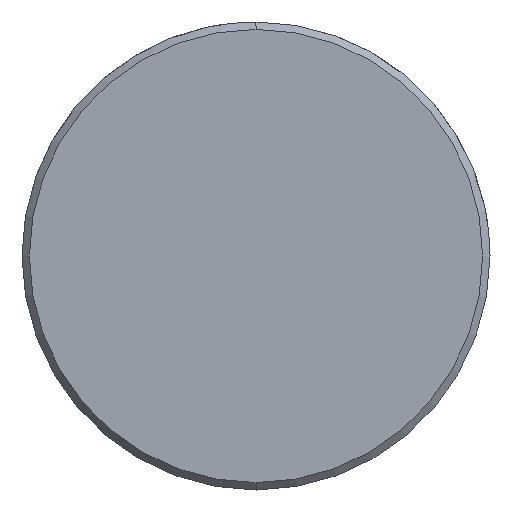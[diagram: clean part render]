
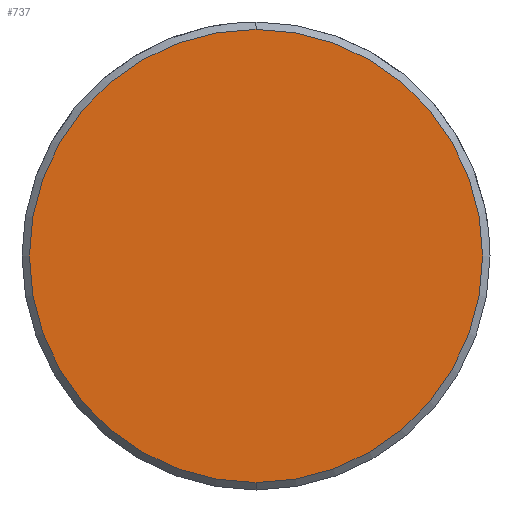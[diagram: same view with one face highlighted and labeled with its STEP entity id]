
A CAD part, left-side view. The second image highlights one B-rep face of the part: STEP entity #737.
In plain terms, the highlighted planar face has unit normal (-1, 0, 0).
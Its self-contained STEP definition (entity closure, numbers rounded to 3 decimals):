
#669=CARTESIAN_POINT('Vertex',(0.,0.,-9.2)) ;
#672=CARTESIAN_POINT('Axis2P3D Location',(0.,0.,0.)) ;
#676=CARTESIAN_POINT('Vertex',(0.,9.2,0.)) ;
#679=CARTESIAN_POINT('Axis2P3D Location',(0.,0.,0.)) ;
#683=CARTESIAN_POINT('Vertex',(0.,0.,9.2)) ;
#705=CARTESIAN_POINT('Axis2P3D Location',(0.,0.,0.)) ;
#709=CARTESIAN_POINT('Vertex',(0.,-9.2,0.)) ;
#712=CARTESIAN_POINT('Axis2P3D Location',(0.,0.,0.)) ;
#726=CARTESIAN_POINT('Axis2P3D Location',(0.,0.,0.)) ;
#673=DIRECTION('Axis2P3D Direction',(1.,0.,-0.)) ;
#680=DIRECTION('Axis2P3D Direction',(1.,0.,-0.)) ;
#706=DIRECTION('Axis2P3D Direction',(1.,0.,-0.)) ;
#713=DIRECTION('Axis2P3D Direction',(1.,0.,-0.)) ;
#727=DIRECTION('Axis2P3D Direction',(1.,0.,-0.)) ;
#728=DIRECTION('Axis2P3D XDirection',(-0.,0.,-1.)) ;
#674=AXIS2_PLACEMENT_3D('Circle Axis2P3D',#672,#673,$) ;
#681=AXIS2_PLACEMENT_3D('Circle Axis2P3D',#679,#680,$) ;
#707=AXIS2_PLACEMENT_3D('Circle Axis2P3D',#705,#706,$) ;
#714=AXIS2_PLACEMENT_3D('Circle Axis2P3D',#712,#713,$) ;
#729=AXIS2_PLACEMENT_3D('Plane Axis2P3D',#726,#727,#728) ;
#732=ORIENTED_EDGE('',*,*,#678,.F.) ;
#733=ORIENTED_EDGE('',*,*,#716,.F.) ;
#734=ORIENTED_EDGE('',*,*,#711,.F.) ;
#735=ORIENTED_EDGE('',*,*,#685,.F.) ;
#737=ADVANCED_FACE('549-16X80',(#736),#730,.F.) ;
#675=CIRCLE('generated circle',#674,9.2) ;
#682=CIRCLE('generated circle',#681,9.2) ;
#708=CIRCLE('generated circle',#707,9.2) ;
#715=CIRCLE('generated circle',#714,9.2) ;
#678=EDGE_CURVE('',#670,#677,#675,.T.) ;
#685=EDGE_CURVE('',#677,#684,#682,.T.) ;
#711=EDGE_CURVE('',#684,#710,#708,.T.) ;
#716=EDGE_CURVE('',#710,#670,#715,.T.) ;
#731=EDGE_LOOP('',(#732,#733,#734,#735)) ;
#736=FACE_OUTER_BOUND('',#731,.T.) ;
#730=PLANE('Plane',#729) ;
#670=VERTEX_POINT('',#669) ;
#677=VERTEX_POINT('',#676) ;
#684=VERTEX_POINT('',#683) ;
#710=VERTEX_POINT('',#709) ;
